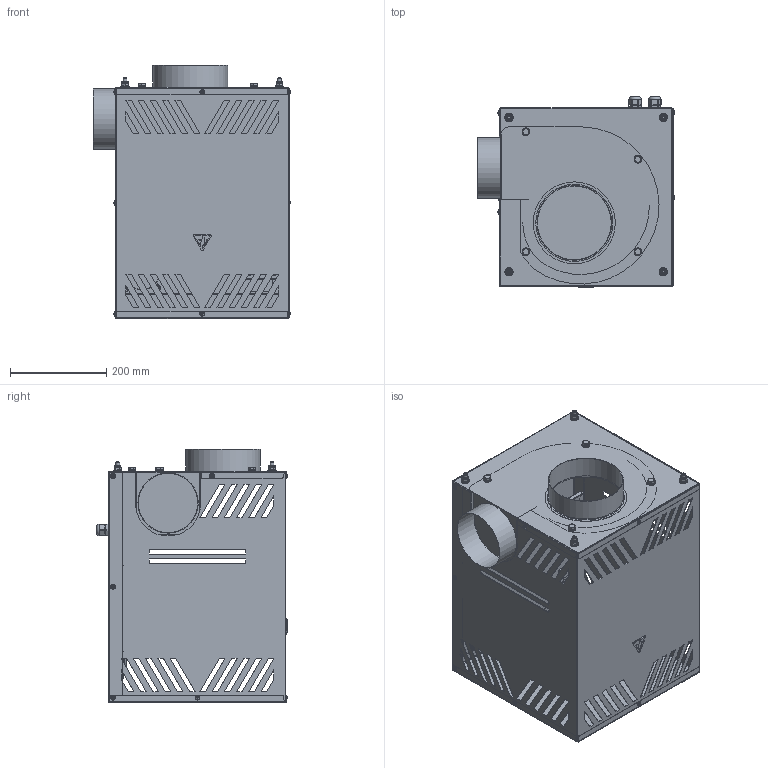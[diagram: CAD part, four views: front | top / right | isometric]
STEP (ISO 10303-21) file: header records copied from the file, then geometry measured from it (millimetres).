
FILE_DESCRIPTION(('STEP AP214'), '1');
FILE_NAME('秜謯鍙僔馯罻 TurboMax S350', '2026-06-15T09:04:59', (''), (''), 'ASCON STEP Converter 1.6', 'ASCON Math Kernel', '');
FILE_SCHEMA(('AUTOMOTIVE_DESIGN { 1 0 10303 214 3 1 1}'));
Length unit declared in the file: millimetre
Products named in the file (1): КЕВМ.4262.00.00.000 СБ-05
Bounding box: 408.95 x 395.86 x 525 mm (x, y, z)
Volume: 1147838.4 mm3; surface area: 2324863.8 mm2
Topology: 2 solids, 4 shells, 1685 faces, 4355 edges, 2796 vertices
Faces by surface type: plane 1085, cylinder 272, bspline 184, cone 85, torus 29, sphere 22, revolution 8
Full cylindrical faces by diameter (mm): 2 x4, 3 x2, 3.6 x2, 4.2 x36, 5.5 x2, 6 x4, 7.5 x4, 8 x12, 8.4 x4, 8.75 x4, 9 x4, 10 x20, 11 x4, 13 x4, 15 x2, 16 x4, 17 x4, 18 x2, 71 x1, 123 x1, 125 x1, 153 x1, 155 x1, 160 x1, 170 x1
Entity records: 77070 total; most frequent: CARTESIAN_POINT 23406, ORIENTED_EDGE 8282, DIRECTION 7715, EDGE_CURVE 4141, VERTEX_POINT 2794, LINE 2719, VECTOR 2719, AXIS2_PLACEMENT_3D 2494
